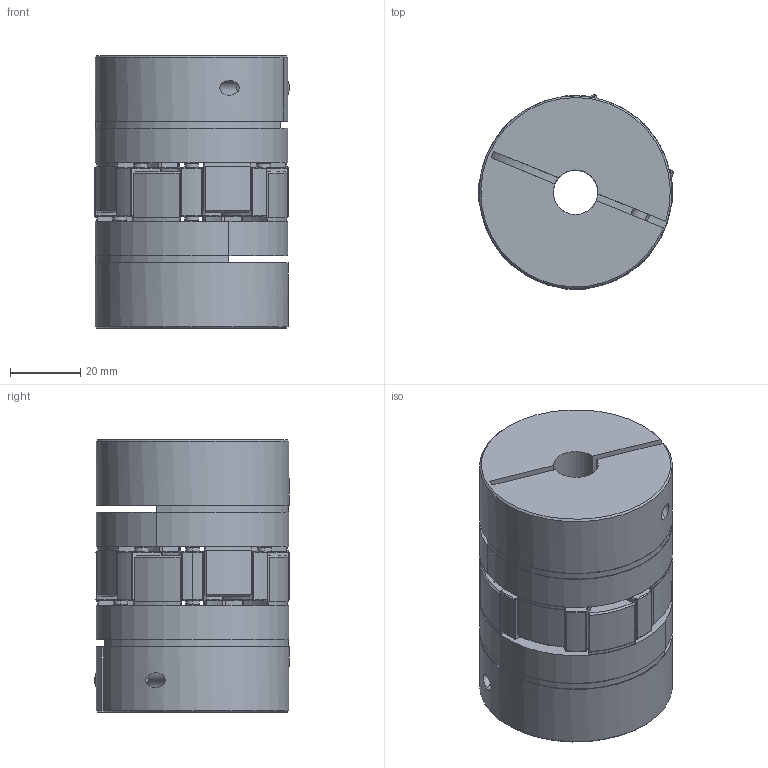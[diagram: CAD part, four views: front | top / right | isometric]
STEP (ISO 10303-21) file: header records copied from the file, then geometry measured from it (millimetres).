
FILE_DESCRIPTION (( 'STEP AP203' ), '1' );
FILE_NAME ('ACOPLAMENTO ADS-60.STEP', '2021-11-04T11:45:04', ( '' ), ( '' ), 'SwSTEP 2.0', 'SolidWorks 2019', '' );
FILE_SCHEMA (( 'CONFIG_CONTROL_DESIGN' ));
Length unit declared in the file: millimetre
Products named in the file (4): ACOPLAMENTO ADS-60; CORPO ADS 60; DIN 912_M5x20; ELASTÔMERO_ADS 60
Assembly tree (5 placements, depth 2):
  ACOPLAMENTO ADS-60
    ELASTÔMERO_ADS 60
    CORPO ADS 60  x2
    DIN 912_M5x20  x2
Bounding box: 55.55 x 55.6 x 77.8 mm (x, y, z)
Volume: 154698.1 mm3; surface area: 42516.5 mm2
Topology: 5 solids, 5 shells, 549 faces, 1225 edges, 700 vertices
Faces by surface type: cylinder 175, plane 144, torus 138, cone 48, sphere 36, bspline 8
Entity records: 12213 total; most frequent: DIRECTION 2339, CARTESIAN_POINT 2233, ORIENTED_EDGE 1824, AXIS2_PLACEMENT_3D 1047, EDGE_CURVE 912, CIRCLE 625, VERTEX_POINT 519, EDGE_LOOP 445
